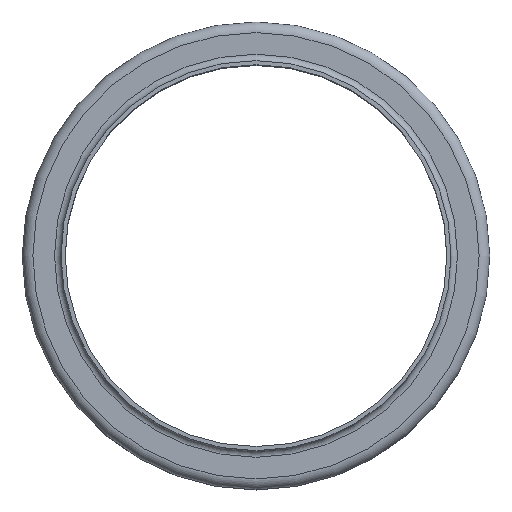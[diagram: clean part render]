
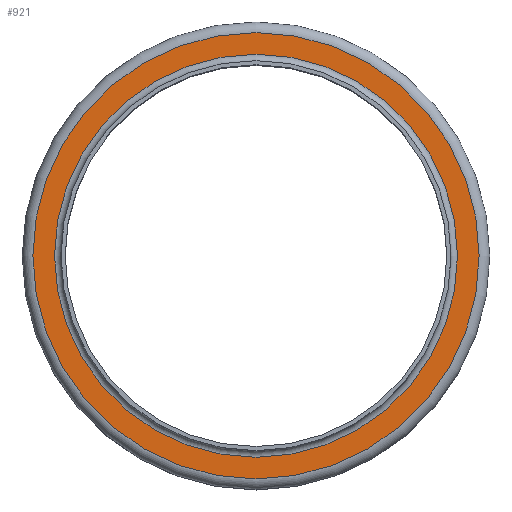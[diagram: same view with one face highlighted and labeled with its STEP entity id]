
A CAD part, top view. The second image highlights one B-rep face of the part: STEP entity #921.
In plain terms, the highlighted planar face has unit normal (0, 0, 1).
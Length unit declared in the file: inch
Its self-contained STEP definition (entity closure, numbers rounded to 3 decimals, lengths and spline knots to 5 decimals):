
#98=FACE_BOUND('',#272,.T.);
#165=FACE_OUTER_BOUND('',#271,.T.);
#271=EDGE_LOOP('',(#772));
#272=EDGE_LOOP('',(#773));
#385=CIRCLE('',#1110,2.935);
#386=CIRCLE('',#1112,3.25);
#466=VERTEX_POINT('',#1734);
#467=VERTEX_POINT('',#1738);
#571=EDGE_CURVE('',#466,#466,#385,.T.);
#572=EDGE_CURVE('',#467,#467,#386,.T.);
#772=ORIENTED_EDGE('',*,*,#572,.F.);
#773=ORIENTED_EDGE('',*,*,#571,.T.);
#854=PLANE('',#1111);
#921=ADVANCED_FACE('',(#165,#98),#854,.T.);
#1110=AXIS2_PLACEMENT_3D('',#1736,#1446,#1447);
#1111=AXIS2_PLACEMENT_3D('',#1737,#1448,#1449);
#1112=AXIS2_PLACEMENT_3D('',#1739,#1450,#1451);
#1446=DIRECTION('center_axis',(0.,0.,-1.));
#1447=DIRECTION('ref_axis',(1.,0.,0.));
#1448=DIRECTION('center_axis',(0.,0.,1.));
#1449=DIRECTION('ref_axis',(1.,0.,0.));
#1450=DIRECTION('center_axis',(0.,0.,-1.));
#1451=DIRECTION('ref_axis',(1.,0.,0.));
#1734=CARTESIAN_POINT('',(2.935,0.,-0.095));
#1736=CARTESIAN_POINT('Origin',(0.,0.,-0.095));
#1737=CARTESIAN_POINT('Origin',(0.,3.25,-0.095));
#1738=CARTESIAN_POINT('',(3.25,0.,-0.095));
#1739=CARTESIAN_POINT('Origin',(0.,0.,-0.095));
